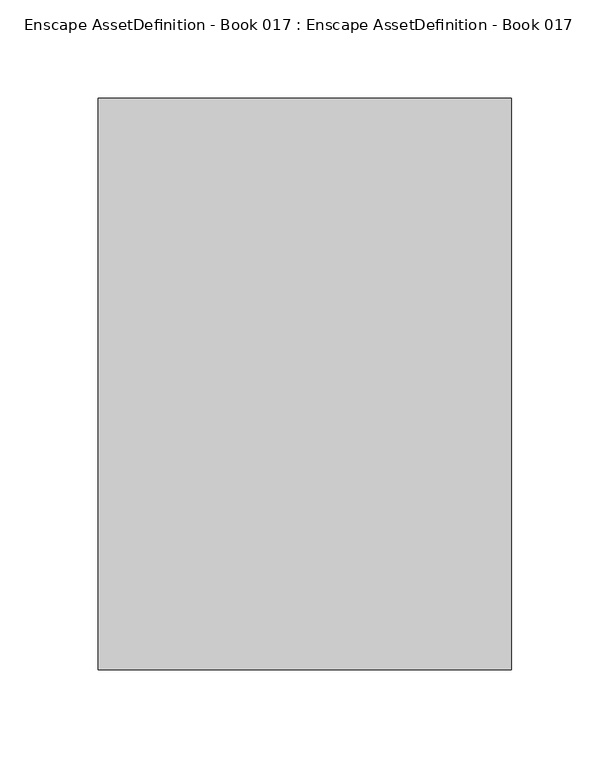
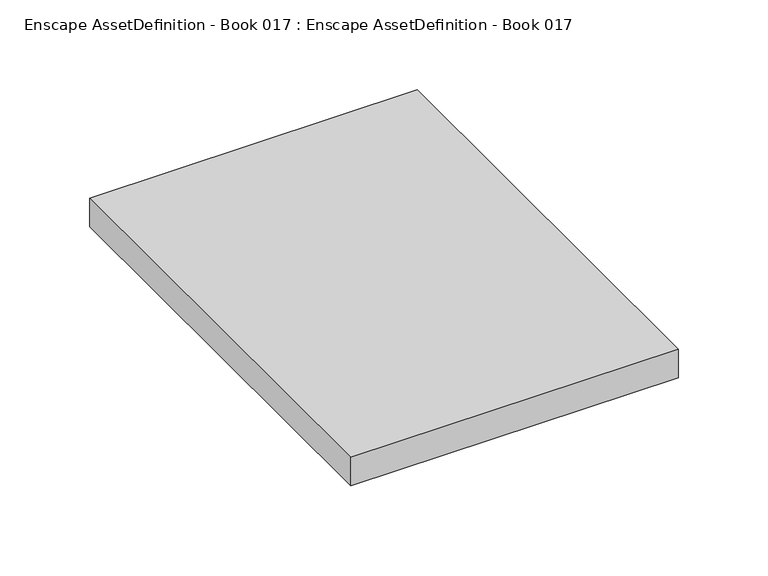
"""IFC4 building model written with IfcOpenShell, lengths in millimetres: geographic element geometry, Enscape AssetDefinition - Book 017 : Enscape AssetDefinition - Book 017."""

from ifc_helpers import new_model, si_unit, origin, place, context, project, spatial, triangles, source, transform, mapped, element, save


def enscape_assetdefinition_book_017_enscape_assetdefinition_008c1f87(model_context):
    return source(origin(), model_context, "Body", "Tessellation", [
        triangles([(104.9999954, -144.9999975, 19.3099996), (104.9999954, 144.9999975, 19.3099996), (-104.9999954, 144.9999975, 19.3099996), (-104.9999954, -144.9999975, 19.3099996), (-104.9999954, -144.9999975, 0.0), (-104.9999954, 144.9999975, 0.0), (104.9999954, -144.9999975, 0.0), (104.9999954, 144.9999975, 0.0)], [[7, 6, 8], [5, 6, 7], [2, 8, 6], [3, 2, 6], [1, 7, 8], [2, 1, 8], [4, 5, 7], [1, 4, 7], [3, 6, 5], [4, 3, 5], [1, 2, 3], [4, 1, 3]]),
    ])


if __name__ == "__main__":
    model = new_model("IFC4")
    model_context = context("Model", 3, world=origin())
    ifc_project = project(units=[si_unit("LENGTHUNIT", "METRE", prefix="MILLI")], contexts=[model_context])
    site = spatial("IfcSite", under=ifc_project)
    building = spatial("IfcBuilding", under=site)
    placement = place(None, origin())
    enscape_assetdefinition_book_017_enscape_assetdefinition_shape = enscape_assetdefinition_book_017_enscape_assetdefinition_008c1f87(model_context)
    element("IfcGeographicElement", 1, ObjectType="Enscape AssetDefinition - Book 017 : Enscape AssetDefinition - Book 017", at=placement, inside=building, context=model_context, shape_type="MappedRepresentation", body=[
        mapped(enscape_assetdefinition_book_017_enscape_assetdefinition_shape, transform((0.0, 0.0, 0.0), x_axis=(1.0, 0.0, 0.0), y_axis=(0.0, 1.0, 0.0), z_axis=(0.0, 0.0, 1.0))),
    ])
    save(model, "model.ifc")
